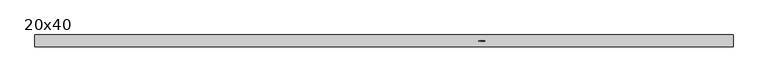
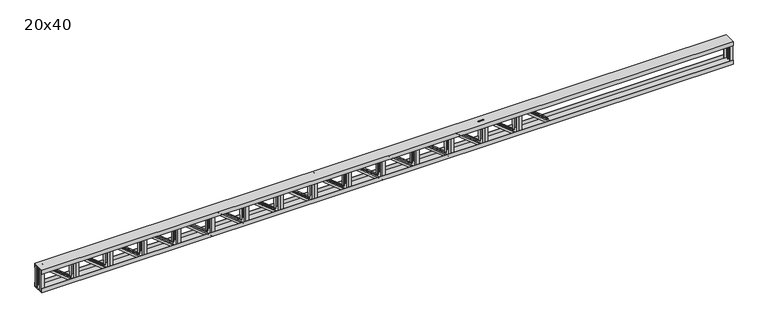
"""IFC4 building model written with IfcOpenShell, lengths in millimetres: beam geometry, Viga Treliçada - Igor Ramos.0001 : 20x40."""

import ifcopenshell
import ifcopenshell.guid

model = None  # the IFC model being written
_history = None  # IfcOwnerHistory: only IFC2X3 demands one
_inside = {}  # id of a spatial element -> (the spatial element, [elements in it])
_under = {}  # id of a project, library or spatial element -> (it, [spatial elements below it])
_declared = {}  # id of a project -> (the project, [libraries it declares])
_typed = {}  # id of a type object -> (the type object, [elements of that type])
_made_of = {}  # id of a material, layer set ... -> (it, [elements and type objects made of it])


def new_model(schema):
    """Start an empty IFC model of exactly this schema.

    Asked for "IFC4X3", IfcOpenShell would pick the latest addendum, in which some entities
    have other attributes; the version numbers below select the first issue.
    IFC2X3 requires an IfcOwnerHistory on every rooted entity: one is made here for all.
    """
    global model, _history
    if schema == "IFC4X3":
        model = ifcopenshell.file(schema_version=(4, 3, 0, 0))
    else:
        model = ifcopenshell.file(schema=schema)
    _inside.clear()
    _under.clear()
    _declared.clear()
    _typed.clear()
    _made_of.clear()
    _history = None
    if model.schema == "IFC2X3":
        org = make("IfcOrganization", Name="unknown")
        user = make(
            "IfcPersonAndOrganization",
            ThePerson=make("IfcPerson", FamilyName="unknown"),
            TheOrganization=org,
        )
        app = make(
            "IfcApplication",
            ApplicationDeveloper=org,
            Version="unknown",
            ApplicationFullName="unknown",
            ApplicationIdentifier="unknown",
        )
        _history = make(
            "IfcOwnerHistory",
            OwningUser=user,
            OwningApplication=app,
            ChangeAction="ADDED",
            CreationDate=0,
        )
    return model


def make(cls, **values):
    """One entity of the class cls with the attributes given. An attribute that is None is left unset."""
    return model.create_entity(
        cls, **{name: value for name, value in values.items() if value is not None}
    )


def rooted(cls, **values):
    """An entity with a GlobalId (a new one), such as an element, a storey or a relation."""
    return make(cls, GlobalId=ifcopenshell.guid.new(), OwnerHistory=_history, **values)


def si_unit(unit_type, name, prefix=None):
    """IfcSIUnit, for example si_unit("LENGTHUNIT", "METRE", prefix="MILLI")."""
    return make("IfcSIUnit", UnitType=unit_type, Prefix=prefix, Name=name)


def assignment(units):
    """IfcUnitAssignment: the units of a project."""
    return None if units is None else make("IfcUnitAssignment", Units=units)


def point(xyz):
    """IfcCartesianPoint."""
    return None if xyz is None else make("IfcCartesianPoint", Coordinates=xyz)


def direction(xyz):
    """IfcDirection."""
    return None if xyz is None else make("IfcDirection", DirectionRatios=xyz)


def frame(location, z_axis=None, x_axis=None):
    """IfcAxis2Placement3D, a coordinate frame: its origin and axes. An axis left out is left unset."""
    return make(
        "IfcAxis2Placement3D",
        Location=point(location),
        Axis=direction(z_axis),
        RefDirection=direction(x_axis),
    )


def origin():
    """The frame at (0, 0, 0) with its axes left unset."""
    return frame((0.0, 0.0, 0.0))


def place(relative_to, where):
    """IfcLocalPlacement: puts the frame where relative to a parent placement (None: the world)."""
    return make(
        "IfcLocalPlacement", PlacementRelTo=relative_to, RelativePlacement=where
    )


def context(
    kind, dimensions, precision=None, world=None, true_north=None, identifier=None
):
    """IfcGeometricRepresentationContext, for example the 3D "Model" context."""
    return make(
        "IfcGeometricRepresentationContext",
        ContextIdentifier=identifier,
        ContextType=kind,
        CoordinateSpaceDimension=dimensions,
        Precision=precision,
        WorldCoordinateSystem=world,
        TrueNorth=true_north,
    )


def project(units=None, contexts=None):
    """IfcProject with its units and contexts."""
    return rooted(
        "IfcProject",
        Name="project",
        RepresentationContexts=contexts,
        UnitsInContext=assignment(units),
    )


def spatial(cls, under=None, at=None, **own):
    """A site, building, storey or space (cls), placed at a placement, below another one or the project."""
    s = rooted(cls, ObjectPlacement=at, **own)
    if under is not None:
        _under.setdefault(under.id(), (under, []))[1].append(s)
    return s


def polyline(points):
    """IfcPolyline through the points."""
    return make("IfcPolyline", Points=[point(p) for p in points])


def outline(outer, holes=None, kind="AREA"):
    """IfcArbitraryClosedProfileDef: a profile drawn as a closed curve; with holes, ...WithVoids."""
    if holes is None:
        return make("IfcArbitraryClosedProfileDef", ProfileType=kind, OuterCurve=outer)
    return make(
        "IfcArbitraryProfileDefWithVoids",
        ProfileType=kind,
        OuterCurve=outer,
        InnerCurves=holes,
    )


def extrude(swept, where, along, depth):
    """IfcExtrudedAreaSolid: the profile swept, set in the frame where, extruded along a direction by depth."""
    return make(
        "IfcExtrudedAreaSolid",
        SweptArea=swept,
        Position=where,
        ExtrudedDirection=direction(along),
        Depth=depth,
    )


def faces_of(points, faces, orient=None, outer=None):
    """IfcFace entities. A face is a list of loops; a loop is a list of indices into points, from 0.

    orient and outer hold one flag for each loop. By default every Orientation is true, the
    first loop of a face is its IfcFaceOuterBound and the others are IfcFaceBound.
    """
    made = []
    for i, loops in enumerate(faces):
        bounds = []
        for j, loop in enumerate(loops):
            is_outer = j == 0 if outer is None else outer[i][j]
            bounds.append(
                make(
                    "IfcFaceOuterBound" if is_outer else "IfcFaceBound",
                    Bound=make("IfcPolyLoop", Polygon=[points[k] for k in loop]),
                    Orientation=True if orient is None else orient[i][j],
                )
            )
        made.append(make("IfcFace", Bounds=bounds))
    return made


def faceted_brep(points, faces, orient=None, outer=None, voids=None):
    """IfcFacetedBrep: a solid bounded by flat faces; with voids (closed shells), ...WithVoids."""
    shared = [point(p) for p in points]
    hull = make("IfcClosedShell", CfsFaces=faces_of(shared, faces, orient, outer))
    if voids is None:
        return make("IfcFacetedBrep", Outer=hull)
    return make(
        "IfcFacetedBrepWithVoids",
        Outer=hull,
        Voids=[
            make(cls, CfsFaces=faces_of(shared, fs, o, b)) for cls, fs, o, b in voids
        ],
    )


def shape(context_of_items, identifier, shape_type, items):
    """IfcShapeRepresentation: the items that make up one representation, for example the "Body"."""
    return make(
        "IfcShapeRepresentation",
        ContextOfItems=context_of_items,
        RepresentationIdentifier=identifier,
        RepresentationType=shape_type,
        Items=items,
    )


def source(mapping_origin, context_of_items, identifier, shape_type, items):
    """IfcRepresentationMap: a shape defined once, which mapped items show again and again."""
    return make(
        "IfcRepresentationMap",
        MappingOrigin=mapping_origin,
        MappedRepresentation=shape(context_of_items, identifier, shape_type, items),
    )


def transform(
    local_origin,
    x_axis=None,
    y_axis=None,
    z_axis=None,
    scale=None,
    scale2=None,
    scale3=None,
    uniform=True,
):
    """IfcCartesianTransformationOperator3D, or its non-uniform kind. x_axis, y_axis, z_axis: its Axis1, 2, 3."""
    if uniform:
        return make(
            "IfcCartesianTransformationOperator3D",
            Axis1=direction(x_axis),
            Axis2=direction(y_axis),
            LocalOrigin=point(local_origin),
            Scale=scale,
            Axis3=direction(z_axis),
        )
    return make(
        "IfcCartesianTransformationOperator3DnonUniform",
        Axis1=direction(x_axis),
        Axis2=direction(y_axis),
        LocalOrigin=point(local_origin),
        Scale=scale,
        Axis3=direction(z_axis),
        Scale2=scale2,
        Scale3=scale3,
    )


def mapped(mapping_source, mapping_target):
    """IfcMappedItem: shows the shape of a source again, moved by a transform."""
    return make(
        "IfcMappedItem", MappingSource=mapping_source, MappingTarget=mapping_target
    )


def made_of(thing, what):
    """Note that an element or type object is made of a material, layer set ...; save() writes the relation."""
    if what is not None:
        _made_of.setdefault(what.id(), (what, []))[1].append(thing)
    return thing


def element(
    cls,
    number,
    at=None,
    inside=None,
    cuts=None,
    type_object=None,
    material=None,
    context=None,
    identifier="Body",
    shape_type=None,
    held_by="IfcProductDefinitionShape",
    body=None,
    shapes=None,
    **own,
):
    """One element of the class cls, such as IfcWall. Its Tag is "e" and its number.

    at: its placement. inside: the storey or other place that contains it. cuts: it is an
    opening in that element (IfcRelVoidsElement). A single representation is given by context,
    identifier, shape_type and body (its items); several are given by shapes. held_by: the class
    of the entity that holds the representations. save() writes the other relations.
    """
    e = rooted(cls, Tag="e%d" % number, ObjectPlacement=at, **own)
    if body is not None:
        shapes = [shape(context, identifier, shape_type, body)]
    if shapes is not None:
        e.Representation = make(held_by, Representations=shapes)
    if inside is not None:
        _inside.setdefault(inside.id(), (inside, []))[1].append(e)
    if cuts is not None:
        rooted(
            "IfcRelVoidsElement", RelatingBuildingElement=cuts, RelatedOpeningElement=e
        )
    if type_object is not None:
        _typed.setdefault(type_object.id(), (type_object, []))[1].append(e)
    return made_of(e, material)


def aggregate(whole, parts):
    """IfcRelAggregates: a whole, such as a stair, and the parts it consists of."""
    return rooted("IfcRelAggregates", RelatingObject=whole, RelatedObjects=parts)


def save(model, path):
    """Write the relations noted so far, then the file.

    IfcRelAggregates (storeys below a building ...), IfcRelContainedInSpatialStructure (elements
    in a storey), IfcRelDefinesByType, IfcRelAssociatesMaterial and IfcRelDeclares: one each for
    every whole, place, type object, material and project.
    """
    for whole, parts in _under.values():
        aggregate(whole, parts)
    for where, things in _inside.values():
        rooted(
            "IfcRelContainedInSpatialStructure",
            RelatedElements=things,
            RelatingStructure=where,
        )
    for kind, things in _typed.values():
        rooted("IfcRelDefinesByType", RelatedObjects=things, RelatingType=kind)
    for what, things in _made_of.values():
        rooted("IfcRelAssociatesMaterial", RelatedObjects=things, RelatingMaterial=what)
    for by, libraries in _declared.values():
        rooted("IfcRelDeclares", RelatingContext=by, RelatedDefinitions=libraries)
    model.write(path)


def beam_20x40_2e5e74c3(model_context):
    return source(origin(), model_context, "Body", "SolidModel", [
        extrude(outline(polyline([(580.1138931, 90.0), (630.1138931, 90.0), (630.1138931, 85.0), (585.1138931, 85.0), (585.1138931, 40.0), (580.1138931, 40.0), (580.1138931, 90.0)])), frame((0.0, 0.0, -190.0), z_axis=(0.0, 0.0, 1.0), x_axis=(1.0, 0.0, 0.0)), (0.0, 0.0, 1.0), 380.0),
        extrude(outline(polyline([(10.114314, 90.0), (60.114314, 90.0), (60.114314, 85.0), (15.114314, 85.0), (15.114314, 40.0), (10.114314, 40.0), (10.114314, 90.0)])), frame((0.0, 0.0, -190.0), z_axis=(0.0, 0.0, 1.0), x_axis=(1.0, 0.0, 0.0)), (0.0, 0.0, 1.0), 380.0),
        extrude(outline(polyline([(-559.8852651, 90.0), (-509.8852651, 90.0), (-509.8852651, 85.0), (-554.8852651, 85.0), (-554.8852651, 40.0), (-559.8852651, 40.0), (-559.8852651, 90.0)])), frame((0.0, 0.0, -190.0), z_axis=(0.0, 0.0, 1.0), x_axis=(1.0, 0.0, 0.0)), (0.0, 0.0, 1.0), 380.0),
        extrude(outline(polyline([(-1129.8848443, 90.0), (-1079.8848443, 90.0), (-1079.8848443, 85.0), (-1124.8848443, 85.0), (-1124.8848443, 40.0), (-1129.8848443, 40.0), (-1129.8848443, 90.0)])), frame((0.0, 0.0, -190.0), z_axis=(0.0, 0.0, 1.0), x_axis=(1.0, 0.0, 0.0)), (0.0, 0.0, 1.0), 380.0),
        extrude(outline(polyline([(-1699.8844234, 90.0), (-1649.8844234, 90.0), (-1649.8844234, 85.0), (-1694.8844234, 85.0), (-1694.8844234, 40.0), (-1699.8844234, 40.0), (-1699.8844234, 90.0)])), frame((0.0, 0.0, -190.0), z_axis=(0.0, 0.0, 1.0), x_axis=(1.0, 0.0, 0.0)), (0.0, 0.0, 1.0), 380.0),
        extrude(outline(polyline([(-2269.8840025, 90.0), (-2219.8840025, 90.0), (-2219.8840025, 85.0), (-2264.8840025, 85.0), (-2264.8840025, 40.0), (-2269.8840025, 40.0), (-2269.8840025, 90.0)])), frame((0.0, 0.0, -190.0), z_axis=(0.0, 0.0, 1.0), x_axis=(1.0, 0.0, 0.0)), (0.0, 0.0, 1.0), 380.0),
        extrude(outline(polyline([(-2839.8835816, 90.0), (-2789.8835816, 90.0), (-2789.8835816, 85.0), (-2834.8835816, 85.0), (-2834.8835816, 40.0), (-2839.8835816, 40.0), (-2839.8835816, 90.0)])), frame((0.0, 0.0, -190.0), z_axis=(0.0, 0.0, 1.0), x_axis=(1.0, 0.0, 0.0)), (0.0, 0.0, 1.0), 380.0),
        extrude(outline(polyline([(-3409.8831607, 90.0), (-3359.8831607, 90.0), (-3359.8831607, 85.0), (-3404.8831607, 85.0), (-3404.8831607, 40.0), (-3409.8831607, 40.0), (-3409.8831607, 90.0)])), frame((0.0, 0.0, -190.0), z_axis=(0.0, 0.0, 1.0), x_axis=(1.0, 0.0, 0.0)), (0.0, 0.0, 1.0), 380.0),
        extrude(outline(polyline([(-3979.8827399, 90.0), (-3929.8827399, 90.0), (-3929.8827399, 85.0), (-3974.8827399, 85.0), (-3974.8827399, 40.0), (-3979.8827399, 40.0), (-3979.8827399, 90.0)])), frame((0.0, 0.0, -190.0), z_axis=(0.0, 0.0, 1.0), x_axis=(1.0, 0.0, 0.0)), (0.0, 0.0, 1.0), 380.0),
        extrude(outline(polyline([(-4549.882319, 90.0), (-4499.882319, 90.0), (-4499.882319, 85.0), (-4544.882319, 85.0), (-4544.882319, 40.0), (-4549.882319, 40.0), (-4549.882319, 90.0)])), frame((0.0, 0.0, -190.0), z_axis=(0.0, 0.0, 1.0), x_axis=(1.0, 0.0, 0.0)), (0.0, 0.0, 1.0), 380.0),
        extrude(outline(polyline([(580.1138931, -90.0), (580.1138931, -40.0), (585.1138931, -40.0), (585.1138931, -85.0), (630.1138931, -85.0), (630.1138931, -90.0), (580.1138931, -90.0)])), frame((0.0, 0.0, -190.0), z_axis=(0.0, 0.0, 1.0), x_axis=(1.0, 0.0, 0.0)), (0.0, 0.0, 1.0), 380.0),
        extrude(outline(polyline([(10.114314, -90.0), (10.114314, -40.0), (15.114314, -40.0), (15.114314, -85.0), (60.114314, -85.0), (60.114314, -90.0), (10.114314, -90.0)])), frame((0.0, 0.0, -190.0), z_axis=(0.0, 0.0, 1.0), x_axis=(1.0, 0.0, 0.0)), (0.0, 0.0, 1.0), 380.0),
        extrude(outline(polyline([(-559.8852651, -90.0), (-559.8852651, -40.0), (-554.8852651, -40.0), (-554.8852651, -85.0), (-509.8852651, -85.0), (-509.8852651, -90.0), (-559.8852651, -90.0)])), frame((0.0, 0.0, -190.0), z_axis=(0.0, 0.0, 1.0), x_axis=(1.0, 0.0, 0.0)), (0.0, 0.0, 1.0), 380.0),
        extrude(outline(polyline([(-1129.8848443, -90.0), (-1129.8848443, -40.0), (-1124.8848443, -40.0), (-1124.8848443, -85.0), (-1079.8848443, -85.0), (-1079.8848443, -90.0), (-1129.8848443, -90.0)])), frame((0.0, 0.0, -190.0), z_axis=(0.0, 0.0, 1.0), x_axis=(1.0, 0.0, 0.0)), (0.0, 0.0, 1.0), 380.0),
        extrude(outline(polyline([(-1699.8844234, -90.0), (-1699.8844234, -40.0), (-1694.8844234, -40.0), (-1694.8844234, -85.0), (-1649.8844234, -85.0), (-1649.8844234, -90.0), (-1699.8844234, -90.0)])), frame((0.0, 0.0, -190.0), z_axis=(0.0, 0.0, 1.0), x_axis=(1.0, 0.0, 0.0)), (0.0, 0.0, 1.0), 380.0),
        extrude(outline(polyline([(-2269.8840025, -90.0), (-2269.8840025, -40.0), (-2264.8840025, -40.0), (-2264.8840025, -85.0), (-2219.8840025, -85.0), (-2219.8840025, -90.0), (-2269.8840025, -90.0)])), frame((0.0, 0.0, -190.0), z_axis=(0.0, 0.0, 1.0), x_axis=(1.0, 0.0, 0.0)), (0.0, 0.0, 1.0), 380.0),
        extrude(outline(polyline([(-2839.8835816, -90.0), (-2839.8835816, -40.0), (-2834.8835816, -40.0), (-2834.8835816, -85.0), (-2789.8835816, -85.0), (-2789.8835816, -90.0), (-2839.8835816, -90.0)])), frame((0.0, 0.0, -190.0), z_axis=(0.0, 0.0, 1.0), x_axis=(1.0, 0.0, 0.0)), (0.0, 0.0, 1.0), 380.0),
        extrude(outline(polyline([(-3409.8831607, -90.0), (-3409.8831607, -40.0), (-3404.8831607, -40.0), (-3404.8831607, -85.0), (-3359.8831607, -85.0), (-3359.8831607, -90.0), (-3409.8831607, -90.0)])), frame((0.0, 0.0, -190.0), z_axis=(0.0, 0.0, 1.0), x_axis=(1.0, 0.0, 0.0)), (0.0, 0.0, 1.0), 380.0),
        extrude(outline(polyline([(-3979.8827399, -90.0), (-3979.8827399, -40.0), (-3974.8827399, -40.0), (-3974.8827399, -85.0), (-3929.8827399, -85.0), (-3929.8827399, -90.0), (-3979.8827399, -90.0)])), frame((0.0, 0.0, -190.0), z_axis=(0.0, 0.0, 1.0), x_axis=(1.0, 0.0, 0.0)), (0.0, 0.0, 1.0), 380.0),
        extrude(outline(polyline([(-4549.882319, -90.0), (-4549.882319, -40.0), (-4544.882319, -40.0), (-4544.882319, -85.0), (-4499.882319, -85.0), (-4499.882319, -90.0), (-4549.882319, -90.0)])), frame((0.0, 0.0, -190.0), z_axis=(0.0, 0.0, 1.0), x_axis=(1.0, 0.0, 0.0)), (0.0, 0.0, 1.0), 380.0),
        faceted_brep([(1100.1134722, -90.0, -190.0), (1100.1134722, -85.0, -190.0), (1145.1134722, -85.0, -190.0), (1145.1134722, -40.0, -190.0), (1150.1134722, -40.0, -190.0), (1150.1134722, -90.0, -190.0), (630.1138931, -90.0, 190.0), (680.1138931, -90.0, 190.0), (680.1138931, -40.0, 190.0), (675.1138931, -40.0, 190.0), (675.1138931, -85.0, 190.0), (630.1138931, -85.0, 190.0)], [[[0, 1, 2, 3, 4, 5]], [[6, 7, 8, 9, 10, 11]], [[6, 11, 1, 0]], [[11, 10, 2, 1]], [[10, 9, 3, 2]], [[9, 8, 4, 3]], [[8, 7, 5, 4]], [[7, 6, 0, 5]]]),
        faceted_brep([(530.1138931, -90.0, -190.0), (530.1138931, -85.0, -190.0), (575.1138931, -85.0, -190.0), (575.1138931, -40.0, -190.0), (580.1138931, -40.0, -190.0), (580.1138931, -90.0, -190.0), (60.114314, -90.0, 190.0), (110.114314, -90.0, 190.0), (110.114314, -40.0, 190.0), (105.114314, -40.0, 190.0), (105.114314, -85.0, 190.0), (60.114314, -85.0, 190.0)], [[[0, 1, 2, 3, 4, 5]], [[6, 7, 8, 9, 10, 11]], [[6, 11, 1, 0]], [[11, 10, 2, 1]], [[10, 9, 3, 2]], [[9, 8, 4, 3]], [[8, 7, 5, 4]], [[7, 6, 0, 5]]]),
        faceted_brep([(-39.885686, -90.0, -190.0), (-39.885686, -85.0, -190.0), (5.114314, -85.0, -190.0), (5.114314, -40.0, -190.0), (10.114314, -40.0, -190.0), (10.114314, -90.0, -190.0), (-509.8852651, -90.0, 190.0), (-459.8852651, -90.0, 190.0), (-459.8852651, -40.0, 190.0), (-464.8852651, -40.0, 190.0), (-464.8852651, -85.0, 190.0), (-509.8852651, -85.0, 190.0)], [[[0, 1, 2, 3, 4, 5]], [[6, 7, 8, 9, 10, 11]], [[6, 11, 1, 0]], [[11, 10, 2, 1]], [[10, 9, 3, 2]], [[9, 8, 4, 3]], [[8, 7, 5, 4]], [[7, 6, 0, 5]]]),
        faceted_brep([(-609.8852651, -90.0, -190.0), (-609.8852651, -85.0, -190.0), (-564.8852651, -85.0, -190.0), (-564.8852651, -40.0, -190.0), (-559.8852651, -40.0, -190.0), (-559.8852651, -90.0, -190.0), (-1079.8848443, -90.0, 190.0), (-1029.8848443, -90.0, 190.0), (-1029.8848443, -40.0, 190.0), (-1034.8848443, -40.0, 190.0), (-1034.8848443, -85.0, 190.0), (-1079.8848443, -85.0, 190.0)], [[[0, 1, 2, 3, 4, 5]], [[6, 7, 8, 9, 10, 11]], [[6, 11, 1, 0]], [[11, 10, 2, 1]], [[10, 9, 3, 2]], [[9, 8, 4, 3]], [[8, 7, 5, 4]], [[7, 6, 0, 5]]]),
        faceted_brep([(-1179.8848443, -90.0, -190.0), (-1179.8848443, -85.0, -190.0), (-1134.8848443, -85.0, -190.0), (-1134.8848443, -40.0, -190.0), (-1129.8848443, -40.0, -190.0), (-1129.8848443, -90.0, -190.0), (-1649.8844234, -90.0, 190.0), (-1599.8844234, -90.0, 190.0), (-1599.8844234, -40.0, 190.0), (-1604.8844234, -40.0, 190.0), (-1604.8844234, -85.0, 190.0), (-1649.8844234, -85.0, 190.0)], [[[0, 1, 2, 3, 4, 5]], [[6, 7, 8, 9, 10, 11]], [[6, 11, 1, 0]], [[11, 10, 2, 1]], [[10, 9, 3, 2]], [[9, 8, 4, 3]], [[8, 7, 5, 4]], [[7, 6, 0, 5]]]),
        faceted_brep([(-1749.8844234, -90.0, -190.0), (-1749.8844234, -85.0, -190.0), (-1704.8844234, -85.0, -190.0), (-1704.8844234, -40.0, -190.0), (-1699.8844234, -40.0, -190.0), (-1699.8844234, -90.0, -190.0), (-2219.8840025, -90.0, 190.0), (-2169.8840025, -90.0, 190.0), (-2169.8840025, -40.0, 190.0), (-2174.8840025, -40.0, 190.0), (-2174.8840025, -85.0, 190.0), (-2219.8840025, -85.0, 190.0)], [[[0, 1, 2, 3, 4, 5]], [[6, 7, 8, 9, 10, 11]], [[6, 11, 1, 0]], [[11, 10, 2, 1]], [[10, 9, 3, 2]], [[9, 8, 4, 3]], [[8, 7, 5, 4]], [[7, 6, 0, 5]]]),
        faceted_brep([(-2319.8840025, -90.0, -190.0), (-2319.8840025, -85.0, -190.0), (-2274.8840025, -85.0, -190.0), (-2274.8840025, -40.0, -190.0), (-2269.8840025, -40.0, -190.0), (-2269.8840025, -90.0, -190.0), (-2789.8835816, -90.0, 190.0), (-2739.8835816, -90.0, 190.0), (-2739.8835816, -40.0, 190.0), (-2744.8835816, -40.0, 190.0), (-2744.8835816, -85.0, 190.0), (-2789.8835816, -85.0, 190.0)], [[[0, 1, 2, 3, 4, 5]], [[6, 7, 8, 9, 10, 11]], [[6, 11, 1, 0]], [[11, 10, 2, 1]], [[10, 9, 3, 2]], [[9, 8, 4, 3]], [[8, 7, 5, 4]], [[7, 6, 0, 5]]]),
        faceted_brep([(-2889.8835816, -90.0, -190.0), (-2889.8835816, -85.0, -190.0), (-2844.8835816, -85.0, -190.0), (-2844.8835816, -40.0, -190.0), (-2839.8835816, -40.0, -190.0), (-2839.8835816, -90.0, -190.0), (-3359.8831607, -90.0, 190.0), (-3309.8831607, -90.0, 190.0), (-3309.8831607, -40.0, 190.0), (-3314.8831607, -40.0, 190.0), (-3314.8831607, -85.0, 190.0), (-3359.8831607, -85.0, 190.0)], [[[0, 1, 2, 3, 4, 5]], [[6, 7, 8, 9, 10, 11]], [[6, 11, 1, 0]], [[11, 10, 2, 1]], [[10, 9, 3, 2]], [[9, 8, 4, 3]], [[8, 7, 5, 4]], [[7, 6, 0, 5]]]),
        faceted_brep([(-3459.8831607, -90.0, -190.0), (-3459.8831607, -85.0, -190.0), (-3414.8831607, -85.0, -190.0), (-3414.8831607, -40.0, -190.0), (-3409.8831607, -40.0, -190.0), (-3409.8831607, -90.0, -190.0), (-3929.8827399, -90.0, 190.0), (-3879.8827399, -90.0, 190.0), (-3879.8827399, -40.0, 190.0), (-3884.8827399, -40.0, 190.0), (-3884.8827399, -85.0, 190.0), (-3929.8827399, -85.0, 190.0)], [[[0, 1, 2, 3, 4, 5]], [[6, 7, 8, 9, 10, 11]], [[6, 11, 1, 0]], [[11, 10, 2, 1]], [[10, 9, 3, 2]], [[9, 8, 4, 3]], [[8, 7, 5, 4]], [[7, 6, 0, 5]]]),
        faceted_brep([(-4029.8827399, -90.0, -190.0), (-4029.8827399, -85.0, -190.0), (-3984.8827399, -85.0, -190.0), (-3984.8827399, -40.0, -190.0), (-3979.8827399, -40.0, -190.0), (-3979.8827399, -90.0, -190.0), (-4499.882319, -90.0, 190.0), (-4449.882319, -90.0, 190.0), (-4449.882319, -40.0, 190.0), (-4454.882319, -40.0, 190.0), (-4454.882319, -85.0, 190.0), (-4499.882319, -85.0, 190.0)], [[[0, 1, 2, 3, 4, 5]], [[6, 7, 8, 9, 10, 11]], [[6, 11, 1, 0]], [[11, 10, 2, 1]], [[10, 9, 3, 2]], [[9, 8, 4, 3]], [[8, 7, 5, 4]], [[7, 6, 0, 5]]]),
        faceted_brep([(1100.1134722, 90.0, -190.0), (1150.1134722, 90.0, -190.0), (1150.1134722, 40.0, -190.0), (1145.1134722, 40.0, -190.0), (1145.1134722, 85.0, -190.0), (1100.1134722, 85.0, -190.0), (630.1138931, 90.0, 190.0), (630.1138931, 85.0, 190.0), (675.1138931, 85.0, 190.0), (675.1138931, 40.0, 190.0), (680.1138931, 40.0, 190.0), (680.1138931, 90.0, 190.0)], [[[0, 1, 2, 3, 4, 5]], [[6, 7, 8, 9, 10, 11]], [[6, 0, 5, 7]], [[7, 5, 4, 8]], [[8, 4, 3, 9]], [[9, 3, 2, 10]], [[10, 2, 1, 11]], [[11, 1, 0, 6]]]),
        faceted_brep([(530.1138931, 90.0, -190.0), (580.1138931, 90.0, -190.0), (580.1138931, 40.0, -190.0), (575.1138931, 40.0, -190.0), (575.1138931, 85.0, -190.0), (530.1138931, 85.0, -190.0), (60.114314, 90.0, 190.0), (60.114314, 85.0, 190.0), (105.114314, 85.0, 190.0), (105.114314, 40.0, 190.0), (110.114314, 40.0, 190.0), (110.114314, 90.0, 190.0)], [[[0, 1, 2, 3, 4, 5]], [[6, 7, 8, 9, 10, 11]], [[6, 0, 5, 7]], [[7, 5, 4, 8]], [[8, 4, 3, 9]], [[9, 3, 2, 10]], [[10, 2, 1, 11]], [[11, 1, 0, 6]]]),
        faceted_brep([(-39.885686, 90.0, -190.0), (10.114314, 90.0, -190.0), (10.114314, 40.0, -190.0), (5.114314, 40.0, -190.0), (5.114314, 85.0, -190.0), (-39.885686, 85.0, -190.0), (-509.8852651, 90.0, 190.0), (-509.8852651, 85.0, 190.0), (-464.8852651, 85.0, 190.0), (-464.8852651, 40.0, 190.0), (-459.8852651, 40.0, 190.0), (-459.8852651, 90.0, 190.0)], [[[0, 1, 2, 3, 4, 5]], [[6, 7, 8, 9, 10, 11]], [[6, 0, 5, 7]], [[7, 5, 4, 8]], [[8, 4, 3, 9]], [[9, 3, 2, 10]], [[10, 2, 1, 11]], [[11, 1, 0, 6]]]),
        faceted_brep([(-609.8852651, 90.0, -190.0), (-559.8852651, 90.0, -190.0), (-559.8852651, 40.0, -190.0), (-564.8852651, 40.0, -190.0), (-564.8852651, 85.0, -190.0), (-609.8852651, 85.0, -190.0), (-1079.8848443, 90.0, 190.0), (-1079.8848443, 85.0, 190.0), (-1034.8848443, 85.0, 190.0), (-1034.8848443, 40.0, 190.0), (-1029.8848443, 40.0, 190.0), (-1029.8848443, 90.0, 190.0)], [[[0, 1, 2, 3, 4, 5]], [[6, 7, 8, 9, 10, 11]], [[6, 0, 5, 7]], [[7, 5, 4, 8]], [[8, 4, 3, 9]], [[9, 3, 2, 10]], [[10, 2, 1, 11]], [[11, 1, 0, 6]]]),
        faceted_brep([(-1179.8848443, 90.0, -190.0), (-1129.8848443, 90.0, -190.0), (-1129.8848443, 40.0, -190.0), (-1134.8848443, 40.0, -190.0), (-1134.8848443, 85.0, -190.0), (-1179.8848443, 85.0, -190.0), (-1649.8844234, 90.0, 190.0), (-1649.8844234, 85.0, 190.0), (-1604.8844234, 85.0, 190.0), (-1604.8844234, 40.0, 190.0), (-1599.8844234, 40.0, 190.0), (-1599.8844234, 90.0, 190.0)], [[[0, 1, 2, 3, 4, 5]], [[6, 7, 8, 9, 10, 11]], [[6, 0, 5, 7]], [[7, 5, 4, 8]], [[8, 4, 3, 9]], [[9, 3, 2, 10]], [[10, 2, 1, 11]], [[11, 1, 0, 6]]]),
        faceted_brep([(-1749.8844234, 90.0, -190.0), (-1699.8844234, 90.0, -190.0), (-1699.8844234, 40.0, -190.0), (-1704.8844234, 40.0, -190.0), (-1704.8844234, 85.0, -190.0), (-1749.8844234, 85.0, -190.0), (-2219.8840025, 90.0, 190.0), (-2219.8840025, 85.0, 190.0), (-2174.8840025, 85.0, 190.0), (-2174.8840025, 40.0, 190.0), (-2169.8840025, 40.0, 190.0), (-2169.8840025, 90.0, 190.0)], [[[0, 1, 2, 3, 4, 5]], [[6, 7, 8, 9, 10, 11]], [[6, 0, 5, 7]], [[7, 5, 4, 8]], [[8, 4, 3, 9]], [[9, 3, 2, 10]], [[10, 2, 1, 11]], [[11, 1, 0, 6]]]),
        faceted_brep([(-2319.8840025, 90.0, -190.0), (-2269.8840025, 90.0, -190.0), (-2269.8840025, 40.0, -190.0), (-2274.8840025, 40.0, -190.0), (-2274.8840025, 85.0, -190.0), (-2319.8840025, 85.0, -190.0), (-2789.8835816, 90.0, 190.0), (-2789.8835816, 85.0, 190.0), (-2744.8835816, 85.0, 190.0), (-2744.8835816, 40.0, 190.0), (-2739.8835816, 40.0, 190.0), (-2739.8835816, 90.0, 190.0)], [[[0, 1, 2, 3, 4, 5]], [[6, 7, 8, 9, 10, 11]], [[6, 0, 5, 7]], [[7, 5, 4, 8]], [[8, 4, 3, 9]], [[9, 3, 2, 10]], [[10, 2, 1, 11]], [[11, 1, 0, 6]]]),
        faceted_brep([(-2889.8835816, 90.0, -190.0), (-2839.8835816, 90.0, -190.0), (-2839.8835816, 40.0, -190.0), (-2844.8835816, 40.0, -190.0), (-2844.8835816, 85.0, -190.0), (-2889.8835816, 85.0, -190.0), (-3359.8831607, 90.0, 190.0), (-3359.8831607, 85.0, 190.0), (-3314.8831607, 85.0, 190.0), (-3314.8831607, 40.0, 190.0), (-3309.8831607, 40.0, 190.0), (-3309.8831607, 90.0, 190.0)], [[[0, 1, 2, 3, 4, 5]], [[6, 7, 8, 9, 10, 11]], [[6, 0, 5, 7]], [[7, 5, 4, 8]], [[8, 4, 3, 9]], [[9, 3, 2, 10]], [[10, 2, 1, 11]], [[11, 1, 0, 6]]]),
        faceted_brep([(-3459.8831607, 90.0, -190.0), (-3409.8831607, 90.0, -190.0), (-3409.8831607, 40.0, -190.0), (-3414.8831607, 40.0, -190.0), (-3414.8831607, 85.0, -190.0), (-3459.8831607, 85.0, -190.0), (-3929.8827399, 90.0, 190.0), (-3929.8827399, 85.0, 190.0), (-3884.8827399, 85.0, 190.0), (-3884.8827399, 40.0, 190.0), (-3879.8827399, 40.0, 190.0), (-3879.8827399, 90.0, 190.0)], [[[0, 1, 2, 3, 4, 5]], [[6, 7, 8, 9, 10, 11]], [[6, 0, 5, 7]], [[7, 5, 4, 8]], [[8, 4, 3, 9]], [[9, 3, 2, 10]], [[10, 2, 1, 11]], [[11, 1, 0, 6]]]),
        faceted_brep([(-4029.8827399, 90.0, -190.0), (-3979.8827399, 90.0, -190.0), (-3979.8827399, 40.0, -190.0), (-3984.8827399, 40.0, -190.0), (-3984.8827399, 85.0, -190.0), (-4029.8827399, 85.0, -190.0), (-4499.882319, 90.0, 190.0), (-4499.882319, 85.0, 190.0), (-4454.882319, 85.0, 190.0), (-4454.882319, 40.0, 190.0), (-4449.882319, 40.0, 190.0), (-4449.882319, 90.0, 190.0)], [[[0, 1, 2, 3, 4, 5]], [[6, 7, 8, 9, 10, 11]], [[6, 0, 5, 7]], [[7, 5, 4, 8]], [[8, 4, 3, 9]], [[9, 3, 2, 10]], [[10, 2, 1, 11]], [[11, 1, 0, 6]]]),
        extrude(outline(polyline([(-5119.8818981, 90.0), (-5069.8818981, 90.0), (-5069.8818981, 85.0), (-5114.8818981, 85.0), (-5114.8818981, 40.0), (-5119.8818981, 40.0), (-5119.8818981, 90.0)])), frame((0.0, 0.0, -190.0), z_axis=(0.0, 0.0, 1.0), x_axis=(1.0, 0.0, 0.0)), (0.0, 0.0, 1.0), 380.0),
        extrude(outline(polyline([(-5689.8814772, 90.0), (-5639.8814772, 90.0), (-5639.8814772, 85.0), (-5684.8814772, 85.0), (-5684.8814772, 40.0), (-5689.8814772, 40.0), (-5689.8814772, 90.0)])), frame((0.0, 0.0, -190.0), z_axis=(0.0, 0.0, 1.0), x_axis=(1.0, 0.0, 0.0)), (0.0, 0.0, 1.0), 380.0),
        extrude(outline(polyline([(-5119.8818981, -90.0), (-5119.8818981, -40.0), (-5114.8818981, -40.0), (-5114.8818981, -85.0), (-5069.8818981, -85.0), (-5069.8818981, -90.0), (-5119.8818981, -90.0)])), frame((0.0, 0.0, -190.0), z_axis=(0.0, 0.0, 1.0), x_axis=(1.0, 0.0, 0.0)), (0.0, 0.0, 1.0), 380.0),
        extrude(outline(polyline([(-5689.8814772, -90.0), (-5689.8814772, -40.0), (-5684.8814772, -40.0), (-5684.8814772, -85.0), (-5639.8814772, -85.0), (-5639.8814772, -90.0), (-5689.8814772, -90.0)])), frame((0.0, 0.0, -190.0), z_axis=(0.0, 0.0, 1.0), x_axis=(1.0, 0.0, 0.0)), (0.0, 0.0, 1.0), 380.0),
        faceted_brep([(-4599.882319, 90.0, -190.0), (-4549.882319, 90.0, -190.0), (-4549.882319, 40.0, -190.0), (-4554.882319, 40.0, -190.0), (-4554.882319, 85.0, -190.0), (-4599.882319, 85.0, -190.0), (-5069.8818981, 90.0, 190.0), (-5069.8818981, 85.0, 190.0), (-5024.8818981, 85.0, 190.0), (-5024.8818981, 40.0, 190.0), (-5019.8818981, 40.0, 190.0), (-5019.8818981, 90.0, 190.0)], [[[0, 1, 2, 3, 4, 5]], [[6, 7, 8, 9, 10, 11]], [[6, 0, 5, 7]], [[7, 5, 4, 8]], [[8, 4, 3, 9]], [[9, 3, 2, 10]], [[10, 2, 1, 11]], [[11, 1, 0, 6]]]),
        faceted_brep([(-5169.8818981, 90.0, -190.0), (-5119.8818981, 90.0, -190.0), (-5119.8818981, 40.0, -190.0), (-5124.8818981, 40.0, -190.0), (-5124.8818981, 85.0, -190.0), (-5169.8818981, 85.0, -190.0), (-5639.8814772, 90.0, 190.0), (-5639.8814772, 85.0, 190.0), (-5594.8814772, 85.0, 190.0), (-5594.8814772, 40.0, 190.0), (-5589.8814772, 40.0, 190.0), (-5589.8814772, 90.0, 190.0)], [[[0, 1, 2, 3, 4, 5]], [[6, 7, 8, 9, 10, 11]], [[6, 0, 5, 7]], [[7, 5, 4, 8]], [[8, 4, 3, 9]], [[9, 3, 2, 10]], [[10, 2, 1, 11]], [[11, 1, 0, 6]]]),
        faceted_brep([(-5739.8814772, 90.0, -190.0), (-5689.8814772, 90.0, -190.0), (-5689.8814772, 40.0, -190.0), (-5694.8814772, 40.0, -190.0), (-5694.8814772, 85.0, -190.0), (-5739.8814772, 85.0, -190.0), (-6209.8810564, 90.0, 190.0), (-6209.8810564, 85.0, 190.0), (-6164.8810564, 85.0, 190.0), (-6164.8810564, 40.0, 190.0), (-6159.8810564, 40.0, 190.0), (-6159.8810564, 90.0, 190.0)], [[[0, 1, 2, 3, 4, 5]], [[6, 7, 8, 9, 10, 11]], [[6, 0, 5, 7]], [[7, 5, 4, 8]], [[8, 4, 3, 9]], [[9, 3, 2, 10]], [[10, 2, 1, 11]], [[11, 1, 0, 6]]]),
        faceted_brep([(-4599.882319, -90.0, -190.0), (-4599.882319, -85.0, -190.0), (-4554.882319, -85.0, -190.0), (-4554.882319, -40.0, -190.0), (-4549.882319, -40.0, -190.0), (-4549.882319, -90.0, -190.0), (-5069.8818981, -90.0, 190.0), (-5019.8818981, -90.0, 190.0), (-5019.8818981, -40.0, 190.0), (-5024.8818981, -40.0, 190.0), (-5024.8818981, -85.0, 190.0), (-5069.8818981, -85.0, 190.0)], [[[0, 1, 2, 3, 4, 5]], [[6, 7, 8, 9, 10, 11]], [[6, 11, 1, 0]], [[11, 10, 2, 1]], [[10, 9, 3, 2]], [[9, 8, 4, 3]], [[8, 7, 5, 4]], [[7, 6, 0, 5]]]),
        faceted_brep([(-5169.8818981, -90.0, -190.0), (-5169.8818981, -85.0, -190.0), (-5124.8818981, -85.0, -190.0), (-5124.8818981, -40.0, -190.0), (-5119.8818981, -40.0, -190.0), (-5119.8818981, -90.0, -190.0), (-5639.8814772, -90.0, 190.0), (-5589.8814772, -90.0, 190.0), (-5589.8814772, -40.0, 190.0), (-5594.8814772, -40.0, 190.0), (-5594.8814772, -85.0, 190.0), (-5639.8814772, -85.0, 190.0)], [[[0, 1, 2, 3, 4, 5]], [[6, 7, 8, 9, 10, 11]], [[6, 11, 1, 0]], [[11, 10, 2, 1]], [[10, 9, 3, 2]], [[9, 8, 4, 3]], [[8, 7, 5, 4]], [[7, 6, 0, 5]]]),
        faceted_brep([(-5739.8814772, -90.0, -190.0), (-5739.8814772, -85.0, -190.0), (-5694.8814772, -85.0, -190.0), (-5694.8814772, -40.0, -190.0), (-5689.8814772, -40.0, -190.0), (-5689.8814772, -90.0, -190.0), (-6209.8810564, -90.0, 190.0), (-6159.8810564, -90.0, 190.0), (-6159.8810564, -40.0, 190.0), (-6164.8810564, -40.0, 190.0), (-6164.8810564, -85.0, 190.0), (-6209.8810564, -85.0, 190.0)], [[[0, 1, 2, 3, 4, 5]], [[6, 7, 8, 9, 10, 11]], [[6, 11, 1, 0]], [[11, 10, 2, 1]], [[10, 9, 3, 2]], [[9, 8, 4, 3]], [[8, 7, 5, 4]], [[7, 6, 0, 5]]]),
        extrude(outline(polyline([(-6259.8810564, 90.0), (-6209.8810564, 90.0), (-6209.8810564, 85.0), (-6254.8810564, 85.0), (-6254.8810564, 40.0), (-6259.8810564, 40.0), (-6259.8810564, 90.0)])), frame((0.0, 0.0, -190.0), z_axis=(0.0, 0.0, 1.0), x_axis=(1.0, 0.0, 0.0)), (0.0, 0.0, 1.0), 380.0),
        extrude(outline(polyline([(-6259.8810564, -90.0), (-6259.8810564, -40.0), (-6254.8810564, -40.0), (-6254.8810564, -85.0), (-6209.8810564, -85.0), (-6209.8810564, -90.0), (-6259.8810564, -90.0)])), frame((0.0, 0.0, -190.0), z_axis=(0.0, 0.0, 1.0), x_axis=(1.0, 0.0, 0.0)), (0.0, 0.0, 1.0), 380.0),
        extrude(outline(polyline([(4159.627213, 90.0), (4159.627213, 40.0), (4154.627213, 40.0), (4154.627213, 85.0), (4109.627213, 85.0), (4109.627213, 90.0), (4159.627213, 90.0)])), frame((0.0, 0.0, -190.0), z_axis=(0.0, 0.0, 1.0), x_axis=(1.0, 0.0, 0.0)), (0.0, 0.0, 1.0), 380.0),
        extrude(outline(polyline([(4159.627213, -90.0), (4109.627213, -90.0), (4109.627213, -85.0), (4154.627213, -85.0), (4154.627213, -40.0), (4159.627213, -40.0), (4159.627213, -90.0)])), frame((0.0, 0.0, -190.0), z_axis=(0.0, 0.0, 1.0), x_axis=(1.0, 0.0, 0.0)), (0.0, 0.0, 1.0), 380.0),
        extrude(outline(polyline([(-6829.8806355, 90.0), (-6779.8806355, 90.0), (-6779.8806355, 85.0), (-6824.8806355, 85.0), (-6824.8806355, 40.0), (-6829.8806355, 40.0), (-6829.8806355, 90.0)])), frame((0.0, 0.0, -190.0), z_axis=(0.0, 0.0, 1.0), x_axis=(1.0, 0.0, 0.0)), (0.0, 0.0, 1.0), 380.0),
        extrude(outline(polyline([(-6829.8806355, -90.0), (-6829.8806355, -40.0), (-6824.8806355, -40.0), (-6824.8806355, -85.0), (-6779.8806355, -85.0), (-6779.8806355, -90.0), (-6829.8806355, -90.0)])), frame((0.0, 0.0, -190.0), z_axis=(0.0, 0.0, 1.0), x_axis=(1.0, 0.0, 0.0)), (0.0, 0.0, 1.0), 380.0),
        faceted_brep([(-6309.8810564, -90.0, -190.0), (-6309.8810564, -85.0, -190.0), (-6264.8810564, -85.0, -190.0), (-6264.8810564, -40.0, -190.0), (-6259.8810564, -40.0, -190.0), (-6259.8810564, -90.0, -190.0), (-6779.8806355, -90.0, 190.0), (-6729.8806355, -90.0, 190.0), (-6729.8806355, -40.0, 190.0), (-6734.8806355, -40.0, 190.0), (-6734.8806355, -85.0, 190.0), (-6779.8806355, -85.0, 190.0)], [[[0, 1, 2, 3, 4, 5]], [[6, 7, 8, 9, 10, 11]], [[6, 11, 1, 0]], [[11, 10, 2, 1]], [[10, 9, 3, 2]], [[9, 8, 4, 3]], [[8, 7, 5, 4]], [[7, 6, 0, 5]]]),
        faceted_brep([(-6309.8810564, 90.0, -190.0), (-6259.8810564, 90.0, -190.0), (-6259.8810564, 40.0, -190.0), (-6264.8810564, 40.0, -190.0), (-6264.8810564, 85.0, -190.0), (-6309.8810564, 85.0, -190.0), (-6779.8806355, 90.0, 190.0), (-6779.8806355, 85.0, 190.0), (-6734.8806355, 85.0, 190.0), (-6734.8806355, 40.0, 190.0), (-6729.8806355, 40.0, 190.0), (-6729.8806355, 90.0, 190.0)], [[[0, 1, 2, 3, 4, 5]], [[6, 7, 8, 9, 10, 11]], [[6, 0, 5, 7]], [[7, 5, 4, 8]], [[8, 4, 3, 9]], [[9, 3, 2, 10]], [[10, 2, 1, 11]], [[11, 1, 0, 6]]]),
        faceted_brep([(-6879.8806355, 90.0, -190.0), (-6829.8806355, 90.0, -190.0), (-6829.8806355, 40.0, -190.0), (-6834.8806355, 40.0, -190.0), (-6834.8806355, 85.0, -190.0), (-6879.8806355, 85.0, -190.0), (-7349.8802146, 90.0, 190.0), (-7349.8802146, 85.0, 190.0), (-7304.8802146, 85.0, 190.0), (-7304.8802146, 40.0, 190.0), (-7299.8802146, 40.0, 190.0), (-7299.8802146, 90.0, 190.0)], [[[0, 1, 2, 3, 4, 5]], [[6, 7, 8, 9, 10, 11]], [[6, 0, 5, 7]], [[7, 5, 4, 8]], [[8, 4, 3, 9]], [[9, 3, 2, 10]], [[10, 2, 1, 11]], [[11, 1, 0, 6]]]),
        extrude(outline(polyline([(-7399.8802146, 90.0), (-7349.8802146, 90.0), (-7349.8802146, 85.0), (-7394.8802146, 85.0), (-7394.8802146, 40.0), (-7399.8802146, 40.0), (-7399.8802146, 90.0)])), frame((0.0, 0.0, -190.0), z_axis=(0.0, 0.0, 1.0), x_axis=(1.0, 0.0, 0.0)), (0.0, 0.0, 1.0), 380.0),
        extrude(outline(polyline([(-7399.8802146, -90.0), (-7399.8802146, -40.0), (-7394.8802146, -40.0), (-7394.8802146, -85.0), (-7349.8802146, -85.0), (-7349.8802146, -90.0), (-7399.8802146, -90.0)])), frame((0.0, 0.0, -190.0), z_axis=(0.0, 0.0, 1.0), x_axis=(1.0, 0.0, 0.0)), (0.0, 0.0, 1.0), 380.0),
        faceted_brep([(-6879.8806355, -90.0, -190.0), (-6879.8806355, -85.0, -190.0), (-6834.8806355, -85.0, -190.0), (-6834.8806355, -40.0, -190.0), (-6829.8806355, -40.0, -190.0), (-6829.8806355, -90.0, -190.0), (-7349.8802146, -90.0, 190.0), (-7299.8802146, -90.0, 190.0), (-7299.8802146, -40.0, 190.0), (-7304.8802146, -40.0, 190.0), (-7304.8802146, -85.0, 190.0), (-7349.8802146, -85.0, 190.0)], [[[0, 1, 2, 3, 4, 5]], [[6, 7, 8, 9, 10, 11]], [[6, 11, 1, 0]], [[11, 10, 2, 1]], [[10, 9, 3, 2]], [[9, 8, 4, 3]], [[8, 7, 5, 4]], [[7, 6, 0, 5]]]),
        extrude(outline(polyline([(-100.0, 200.0), (100.0, 200.0), (100.0, 130.0), (90.0, 130.0), (90.0, 190.0), (-90.0, 190.0), (-90.0, 130.0), (-100.0, 130.0), (-100.0, 200.0)])), frame((-7399.8802146, 0.0, 0.0), z_axis=(1.0, 0.0, 0.0), x_axis=(0.0, 1.0, 0.0)), (0.0, 0.0, 1.0), 11559.5074276),
        extrude(outline(polyline([(100.0, -130.0), (100.0, -200.0), (-100.0, -200.0), (-100.0, -130.0), (-90.0, -130.0), (-90.0, -190.0), (90.0, -190.0), (90.0, -130.0), (100.0, -130.0)])), frame((-7399.8802146, 0.0, 0.0), z_axis=(1.0, 0.0, 0.0), x_axis=(0.0, 1.0, 0.0)), (0.0, 0.0, 1.0), 11559.5074276),
        extrude(outline(polyline([(-40.6337926, -4.4248778), (-42.2708675, -4.6848478), (-43.3708347, -5.0), (-44.5480571, -4.6394756), (-45.476346, -3.5309246), (-45.8331915, -1.8877183), (-45.2801422, 0.3195737), (-43.9042636, 1.9799477), (-42.3064294, 2.5342233), (-41.1807105, 2.219071), (-40.2561005, 1.258899), (-40.0255611, 2.3772603), (-38.7698572, 2.3772603), (-39.809737, -2.2286223), (-40.0255611, -3.290575), (-38.5859162, -3.3469836), (-37.3437013, -1.9551634), (-36.8863014, -0.1513153), (-37.4749126, 1.8744882), (-39.2321622, 3.3815781), (-41.8134676, 3.9468901), (-44.7589761, 3.2295202), (-46.8264729, 1.1730599), (-47.5597843, -1.6964197), (-46.8338305, -4.461666), (-44.7332243, -6.1735436), (-41.6883877, -6.7265928), (-38.6938283, -6.1772224), (-36.8863014, -4.843037), (-35.6305975, -4.843037), (-36.8188564, -6.3366379), (-38.8238132, -7.539612), (-41.6246215, -7.9822967), (-44.4070356, -7.5911155), (-46.5787657, -6.4163457), (-47.9301189, -4.6100451), (-48.5015622, -1.8141419), (-47.8197543, 1.3717162), (-45.462857, 4.215444), (-41.757059, 5.202594), (-38.7257114, 4.5109758), (-36.6042585, 2.4483841), (-35.9445235, -0.1145271), (-37.3130445, -3.6241213), (-40.6337926, -4.4248778)]), holes=[polyline([(-44.5774876, -1.9073387), (-44.1372555, -3.2611444), (-43.1280326, -3.7442961), (-42.3272761, -3.5309246), (-41.5240671, -2.8981675), (-40.8974414, -1.8337623), (-40.653413, -0.5388177), (-41.110813, 0.8014991), (-42.2254954, 1.2785194), (-43.0421934, 1.0712792), (-43.7840888, 0.4066391), (-44.3604373, -0.7055908), (-44.5774876, -1.9073387)])]), frame((0.0, 0.0, 200.0), z_axis=(0.0, 0.0, 1.0), x_axis=(1.0, 0.0, 0.0)), (0.0, 0.0, 1.0), 1.0),
        extrude(outline(polyline([(-34.2179306, 3.7899271), (-34.2179306, 5.045631), (-32.9622268, 5.045631), (-32.9622268, 3.7899271), (-34.2179306, 3.7899271)])), frame((0.0, 0.0, 200.0), z_axis=(0.0, 0.0, 1.0), x_axis=(1.0, 0.0, 0.0)), (0.0, 0.0, 1.0), 1.0),
        extrude(outline(polyline([(-34.2179306, -5.0), (-34.2179306, 2.3772603), (-32.9622268, 2.3772603), (-32.9622268, -5.0), (-34.2179306, -5.0)])), frame((0.0, 0.0, 200.0), z_axis=(0.0, 0.0, 1.0), x_axis=(1.0, 0.0, 0.0)), (0.0, 0.0, 1.0), 1.0),
        extrude(outline(polyline([(-31.3925969, -5.6278519), (-30.136893, -5.7848149), (-28.5108546, -6.7265928), (-27.2257202, -6.4102143), (-26.6125835, -5.5223924), (-26.5267444, -4.0582221), (-28.4887817, -5.0), (-30.7488034, -3.9037117), (-31.5495599, -1.2745817), (-31.1902618, 0.6715141), (-30.1503821, 2.048619), (-28.5500954, 2.5342233), (-26.5267444, 1.4354824), (-26.5267444, 2.3772603), (-25.2710405, 2.3772603), (-25.2710405, -3.9920033), (-25.6143971, -6.431061), (-26.7021015, -7.5653638), (-28.5353801, -7.9822967), (-30.6237236, -7.3949118), (-31.3925969, -5.6278519)]), holes=[polyline([(-30.293856, -1.1887425), (-29.7579746, -3.1323857), (-28.4127528, -3.7442961), (-27.0699835, -3.1360646), (-26.5267444, -1.2255307), (-27.085925, 0.6469886), (-28.4323731, 1.2785194), (-29.7506169, 0.6567988), (-30.293856, -1.1887425)])]), frame((0.0, 0.0, 200.0), z_axis=(0.0, 0.0, 1.0), x_axis=(1.0, 0.0, 0.0)), (0.0, 0.0, 1.0), 1.0),
        extrude(outline(polyline([(-23.7014107, -1.3113699), (-22.6149325, 1.7175252), (-20.4027355, 2.5342233), (-18.0298966, 1.5397156), (-17.1089653, -1.2083629), (-17.5160881, -3.4426329), (-18.7018944, -4.7069207), (-20.4027355, -5.156963), (-22.7902896, -4.1661341), (-23.7014107, -1.3113699)]), holes=[polyline([(-22.4457068, -1.3089173), (-21.8644532, -3.2550131), (-20.4027355, -3.9012591), (-18.9459228, -3.2513342), (-18.3646692, -1.2696766), (-18.9496016, 0.6322733), (-20.4027355, 1.2785194), (-21.8644532, 0.6347259), (-22.4457068, -1.3089173)])]), frame((0.0, 0.0, 200.0), z_axis=(0.0, 0.0, 1.0), x_axis=(1.0, 0.0, 0.0)), (0.0, 0.0, 1.0), 1.0),
        extrude(outline(polyline([(-15.6962985, -5.0), (-15.6962985, 2.3772603), (-14.5975576, 2.3772603), (-14.5975576, 1.285877), (-13.8176477, 2.2914211), (-13.0328328, 2.5342233), (-11.7722238, 2.1467209), (-12.1916093, 1.021002), (-13.0745261, 1.2785194), (-14.2370332, 0.3440991), (-14.4405946, -1.1225238), (-14.4405946, -5.0), (-15.6962985, -5.0)])), frame((0.0, 0.0, 200.0), z_axis=(0.0, 0.0, 1.0), x_axis=(1.0, 0.0, 0.0)), (0.0, 0.0, 1.0), 1.0),
        extrude(outline(polyline([(-10.9874089, -5.0), (-10.9874089, 2.3772603), (-9.888668, 2.3772603), (-9.888668, 1.285877), (-9.1087582, 2.2914211), (-8.3239433, 2.5342233), (-7.0633343, 2.1467209), (-7.4827198, 1.021002), (-8.3656366, 1.2785194), (-9.5281437, 0.3440991), (-9.731705, -1.1225238), (-9.731705, -5.0), (-10.9874089, -5.0)])), frame((0.0, 0.0, 200.0), z_axis=(0.0, 0.0, 1.0), x_axis=(1.0, 0.0, 0.0)), (0.0, 0.0, 1.0), 1.0),
        extrude(outline(polyline([(-1.5696298, -4.0582221), (-2.7873193, -4.9092558), (-4.1325411, -5.156963), (-5.9560095, -4.5609942), (-6.5924454, -3.0379627), (-6.3520958, -2.0446813), (-5.720565, -1.3236326), (-4.8413271, -0.9116048), (-3.7548489, -0.7227587), (-1.5769875, -0.2911105), (-1.9154389, 0.9155425), (-3.3035803, 1.2785194), (-4.5739995, 1.0369435), (-5.1797785, 0.1797785), (-6.4354824, 0.3367415), (-5.8922433, 1.5630148), (-4.7984075, 2.281611), (-3.1417122, 2.5342233), (-1.6199071, 2.3110415), (-0.7602895, 1.7506346), (-0.3752396, 0.8983747), (-0.313926, -0.2003662), (-0.313926, -1.7626384), (-0.2501598, -3.9441787), (0.0, -5.0), (-1.2557039, -5.0), (-1.5696298, -4.0582221)]), holes=[polyline([(-1.5733087, -1.724624), (-3.5954334, -1.9318642), (-4.6757802, -2.1354255), (-3.8652135, -3.9012591), (-2.5947943, -3.6008221), (-1.7756438, -2.8736421), (-1.5733087, -1.724624)])]), frame((0.0, 0.0, 200.0), z_axis=(0.0, 0.0, 1.0), x_axis=(1.0, 0.0, 0.0)), (0.0, 0.0, 1.0), 1.0),
        extrude(outline(polyline([(1.4126669, -5.0), (1.4126669, 2.3772603), (2.6683707, 2.3772603), (2.6683707, 1.1632497), (3.5316672, 2.1577574), (4.760393, 2.5342233), (6.0185494, 2.1503997), (6.7101676, 1.074958), (8.9272697, 2.5342233), (10.5692497, 1.927218), (11.1443719, 0.0571512), (11.1443719, -5.0), (9.888668, -5.0), (9.888668, -0.4824091), (9.7721721, 0.5660546), (7.3981069, 0.7757473), (6.9063713, -0.8355758), (6.9063713, -5.0), (5.6506674, -5.0), (5.6506674, -0.3426139), (5.3600407, 0.8738492), (4.4072263, 1.2785194), (3.4777111, 1.0087393), (2.8596694, 0.2190192), (2.6683707, -1.2794868), (2.6683707, -5.0), (1.4126669, -5.0)])), frame((0.0, 0.0, 200.0), z_axis=(0.0, 0.0, 1.0), x_axis=(1.0, 0.0, 0.0)), (0.0, 0.0, 1.0), 1.0),
        extrude(outline(polyline([(12.7140018, -1.3113699), (13.8004799, 1.7175252), (16.012677, 2.5342233), (18.3855158, 1.5397156), (19.3064471, -1.2083629), (18.8993244, -3.4426329), (17.7135181, -4.7069207), (16.012677, -5.156963), (13.6251228, -4.1661341), (12.7140018, -1.3113699)]), holes=[polyline([(13.9697056, -1.3089173), (14.5509592, -3.2550131), (16.012677, -3.9012591), (17.4694897, -3.2513342), (18.0507432, -1.2696766), (17.4658109, 0.6322733), (16.012677, 1.2785194), (14.5509592, 0.6347259), (13.9697056, -1.3089173)])]), frame((0.0, 0.0, 200.0), z_axis=(0.0, 0.0, 1.0), x_axis=(1.0, 0.0, 0.0)), (0.0, 0.0, 1.0), 1.0),
        extrude(outline(polyline([(20.248225, -2.8025182), (21.5039289, -2.6455552), (22.0851824, -3.577523), (23.4169153, -3.9012591), (24.6971446, -3.604501), (25.1140775, -2.9079777), (23.4022, -1.9858202), (21.5112865, -1.3714573), (20.6860046, -0.6540874), (20.405188, 0.3588144), (20.6308223, 1.2944609), (21.2464115, 2.0093783), (22.0447154, 2.3809391), (23.1250622, 2.5342233), (24.6529988, 2.2877423), (25.6242072, 1.6206496), (26.0558554, 0.4937045), (24.8001516, 0.3367415), (24.3280363, 1.0295859), (23.2231641, 1.2785194), (22.0214162, 1.0406224), (23.3605067, -0.423548), (25.2035955, -1.0146117), (26.0595343, -1.684157), (26.3697814, -2.7755402), (26.0055782, -3.9772881), (24.954662, -4.8491684), (23.3997474, -5.156963), (21.2096233, -4.5634467), (20.248225, -2.8025182)])), frame((0.0, 0.0, 200.0), z_axis=(0.0, 0.0, 1.0), x_axis=(1.0, 0.0, 0.0)), (0.0, 0.0, 1.0), 1.0),
        extrude(outline(polyline([(29.0381522, -5.0), (27.7824483, -5.0), (27.7824483, 5.045631), (29.0381522, 5.045631), (29.0381522, 1.3202127), (31.0099996, 2.5342233), (32.2681561, 2.2607643), (33.2442696, 1.4918909), (33.8439173, 0.2962745), (34.0609677, -1.2010053), (33.1621093, -4.1244409), (31.002642, -5.156963), (29.0381522, -3.8252302), (29.0381522, -5.0)]), holes=[polyline([(29.0381522, -1.2598664), (29.3815087, -3.0158898), (30.89473, -3.9012591), (32.2387255, -3.2488817), (32.8052638, -1.3040122), (32.2620247, 0.6482149), (30.948686, 1.2785194), (29.6046904, 0.626142), (29.0381522, -1.2598664)])]), frame((0.0, 0.0, 200.0), z_axis=(0.0, 0.0, 1.0), x_axis=(1.0, 0.0, 0.0)), (0.0, 0.0, 1.0), 1.0),
        extrude(outline(polyline([(35.4736345, 3.7899271), (35.4736345, 5.045631), (36.7293384, 5.045631), (36.7293384, 3.7899271), (35.4736345, 3.7899271)])), frame((0.0, 0.0, 200.0), z_axis=(0.0, 0.0, 1.0), x_axis=(1.0, 0.0, 0.0)), (0.0, 0.0, 1.0), 1.0),
        extrude(outline(polyline([(35.4736345, -5.0), (35.4736345, 2.3772603), (36.7293384, 2.3772603), (36.7293384, -5.0), (35.4736345, -5.0)])), frame((0.0, 0.0, 200.0), z_axis=(0.0, 0.0, 1.0), x_axis=(1.0, 0.0, 0.0)), (0.0, 0.0, 1.0), 1.0),
        extrude(outline(polyline([(38.6128942, -5.0), (38.6128942, 2.3772603), (39.8685981, 2.3772603), (39.8685981, 1.1632497), (40.7318945, 2.1577574), (41.9606204, 2.5342233), (43.2187768, 2.1503997), (43.9103949, 1.074958), (46.1274971, 2.5342233), (47.7694771, 1.927218), (48.3445993, 0.0571512), (48.3445993, -5.0), (47.0888954, -5.0), (47.0888954, -0.4824091), (46.9723994, 0.5660546), (44.5983343, 0.7757473), (44.1065987, -0.8355758), (44.1065987, -5.0), (42.8508948, -5.0), (42.8508948, -0.3426139), (42.560268, 0.8738492), (41.6074537, 1.2785194), (40.6779385, 1.0087393), (40.0598967, 0.2190192), (39.8685981, -1.2794868), (39.8685981, -5.0), (38.6128942, -5.0)])), frame((0.0, 0.0, 200.0), z_axis=(0.0, 0.0, 1.0), x_axis=(1.0, 0.0, 0.0)), (0.0, 0.0, 1.0), 1.0),
    ])


if __name__ == "__main__":
    model = new_model("IFC4")
    model_context = context("Model", 3, world=origin())
    ifc_project = project(units=[si_unit("LENGTHUNIT", "METRE", prefix="MILLI")], contexts=[model_context])
    site = spatial("IfcSite", under=ifc_project)
    building = spatial("IfcBuilding", under=site)
    placement = place(None, origin())
    beam_20x40_shape = beam_20x40_2e5e74c3(model_context)
    element("IfcBeam", 1, ObjectType="Viga Treliçada - Igor Ramos.0001 : 20x40", at=placement, inside=building, context=model_context, shape_type="MappedRepresentation", body=[
        mapped(beam_20x40_shape, transform((0.0, 0.0, 0.0), x_axis=(1.0, 0.0, 0.0), y_axis=(0.0, 1.0, 0.0), z_axis=(0.0, 0.0, 1.0))),
    ])
    save(model, "model.ifc")
